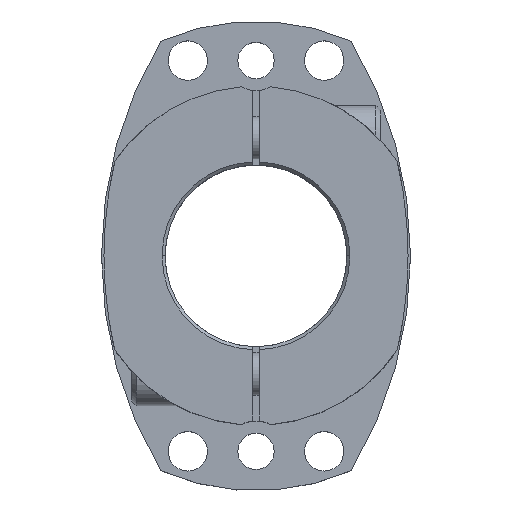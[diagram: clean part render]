
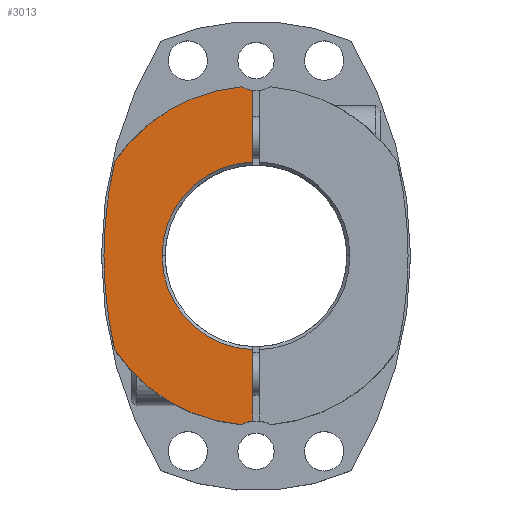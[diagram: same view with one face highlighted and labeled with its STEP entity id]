
A CAD part, top view. The second image highlights one B-rep face of the part: STEP entity #3013.
In plain terms, the highlighted planar face has unit normal (0, 0, 1).
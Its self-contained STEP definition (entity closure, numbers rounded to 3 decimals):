
#414=CARTESIAN_POINT('',(-31.,0.,42.5));
#415=VERTEX_POINT('',#414);
#422=CARTESIAN_POINT('',(-1.,-30.984,42.5));
#423=VERTEX_POINT('',#422);
#424=CARTESIAN_POINT('',(0.,0.,42.5));
#425=DIRECTION('',(0.0,0.0,1.0));
#426=DIRECTION('',(1.0,0.0,0.0));
#427=AXIS2_PLACEMENT_3D('',#424,#425,#426);
#428=CIRCLE('',#427,31.0);
#429=EDGE_CURVE('',#415,#423,#428,.T.);
#912=CARTESIAN_POINT('',(-50.2,0.,42.5));
#913=VERTEX_POINT('',#912);
#922=CARTESIAN_POINT('',(-46.66,30.965,42.5));
#923=VERTEX_POINT('',#922);
#924=CARTESIAN_POINT('',(87.,0.,42.5));
#925=DIRECTION('',(0.0,0.0,-1.0));
#926=DIRECTION('',(1.0,0.0,0.0));
#927=AXIS2_PLACEMENT_3D('',#924,#925,#926);
#928=CIRCLE('',#927,137.2);
#929=EDGE_CURVE('',#913,#923,#928,.T.);
#2026=CARTESIAN_POINT('',(-46.66,-30.965,42.5));
#2027=VERTEX_POINT('',#2026);
#2034=CARTESIAN_POINT('',(87.,0.,42.5));
#2035=DIRECTION('',(0.0,0.0,-1.0));
#2036=DIRECTION('',(1.0,0.0,0.0));
#2037=AXIS2_PLACEMENT_3D('',#2034,#2035,#2036);
#2038=CIRCLE('',#2037,137.2);
#2039=EDGE_CURVE('',#2027,#913,#2038,.T.);
#2637=CARTESIAN_POINT('',(-1.,54.55,42.5));
#2638=VERTEX_POINT('',#2637);
#2645=CARTESIAN_POINT('',(-1.,30.984,42.5));
#2646=VERTEX_POINT('',#2645);
#2647=CARTESIAN_POINT('',(-1.,30.984,42.5));
#2648=DIRECTION('',(0.0,1.0,0.0));
#2649=VECTOR('',#2648,23.566);
#2650=LINE('',#2647,#2649);
#2651=EDGE_CURVE('',#2646,#2638,#2650,.T.);
#2739=CARTESIAN_POINT('',(-1.,-54.55,42.5));
#2740=VERTEX_POINT('',#2739);
#2741=CARTESIAN_POINT('',(-1.,-54.55,42.5));
#2742=DIRECTION('',(0.0,1.0,0.0));
#2743=VECTOR('',#2742,23.566);
#2744=LINE('',#2741,#2743);
#2745=EDGE_CURVE('',#2740,#423,#2744,.T.);
#2826=CARTESIAN_POINT('',(-4.904,-55.785,42.5));
#2827=VERTEX_POINT('',#2826);
#2828=CARTESIAN_POINT('',(0.,-64.5,42.5));
#2829=DIRECTION('',(0.0,0.0,-1.0));
#2830=DIRECTION('',(1.0,0.0,0.0));
#2831=AXIS2_PLACEMENT_3D('',#2828,#2829,#2830);
#2832=CIRCLE('',#2831,10.0);
#2833=EDGE_CURVE('',#2827,#2740,#2832,.T.);
#2970=CARTESIAN_POINT('',(0.,0.,42.5));
#2971=DIRECTION('',(0.0,0.0,1.0));
#2972=DIRECTION('',(1.0,0.0,0.0));
#2973=AXIS2_PLACEMENT_3D('',#2970,#2971,#2972);
#2974=PLANE('',#2973);
#2975=ORIENTED_EDGE('',*,*,#2745,.T.);
#2976=ORIENTED_EDGE('',*,*,#429,.F.);
#2977=CARTESIAN_POINT('',(0.,0.,42.5));
#2978=DIRECTION('',(0.0,0.0,1.0));
#2979=DIRECTION('',(1.0,0.0,0.0));
#2980=AXIS2_PLACEMENT_3D('',#2977,#2978,#2979);
#2981=CIRCLE('',#2980,31.0);
#2982=EDGE_CURVE('',#2646,#415,#2981,.T.);
#2983=ORIENTED_EDGE('',*,*,#2982,.F.);
#2984=ORIENTED_EDGE('',*,*,#2651,.T.);
#2985=CARTESIAN_POINT('',(-4.904,55.785,42.5));
#2986=VERTEX_POINT('',#2985);
#2987=CARTESIAN_POINT('',(0.,64.5,42.5));
#2988=DIRECTION('',(0.0,0.0,-1.0));
#2989=DIRECTION('',(1.0,0.0,0.0));
#2990=AXIS2_PLACEMENT_3D('',#2987,#2988,#2989);
#2991=CIRCLE('',#2990,10.0);
#2992=EDGE_CURVE('',#2638,#2986,#2991,.T.);
#2993=ORIENTED_EDGE('',*,*,#2992,.T.);
#2994=CARTESIAN_POINT('',(0.,0.,42.5));
#2995=DIRECTION('',(0.0,0.0,-1.0));
#2996=DIRECTION('',(1.0,0.0,0.0));
#2997=AXIS2_PLACEMENT_3D('',#2994,#2995,#2996);
#2998=CIRCLE('',#2997,56.);
#2999=EDGE_CURVE('',#923,#2986,#2998,.T.);
#3000=ORIENTED_EDGE('',*,*,#2999,.F.);
#3001=ORIENTED_EDGE('',*,*,#929,.F.);
#3002=ORIENTED_EDGE('',*,*,#2039,.F.);
#3003=CARTESIAN_POINT('',(0.,0.0,42.5));
#3004=DIRECTION('',(0.0,0.0,-1.0));
#3005=DIRECTION('',(1.0,0.0,0.0));
#3006=AXIS2_PLACEMENT_3D('',#3003,#3004,#3005);
#3007=CIRCLE('',#3006,56.);
#3008=EDGE_CURVE('',#2827,#2027,#3007,.T.);
#3009=ORIENTED_EDGE('',*,*,#3008,.F.);
#3010=ORIENTED_EDGE('',*,*,#2833,.T.);
#3011=EDGE_LOOP('',(#2975,#2976,#2983,#2984,#2993,#3000,#3001,#3002,#3009,#3010));
#3012=FACE_OUTER_BOUND('',#3011,.T.);
#3013=ADVANCED_FACE('',(#3012),#2974,.T.);
